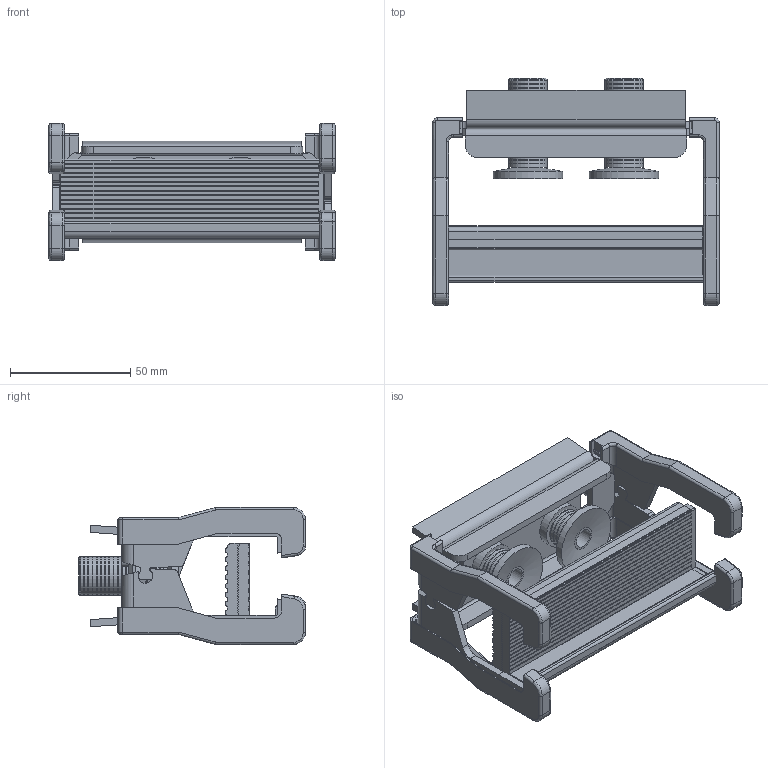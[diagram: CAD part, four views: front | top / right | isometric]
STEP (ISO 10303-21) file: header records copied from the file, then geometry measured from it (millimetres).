
FILE_DESCRIPTION (( 'STEP AP203' ), '1' );
FILE_NAME ('54213.STEP', '2021-08-14T01:58:44', ( '' ), ( '' ), 'SwSTEP 2.0', 'SolidWorks 2017', '' );
FILE_SCHEMA (( 'CONFIG_CONTROL_DESIGN' ));
Length unit declared in the file: millimetre
Products named in the file (2): 54213
Bounding box: 119 x 94.37 x 57 mm (x, y, z)
Volume: 146523.8 mm3; surface area: 97534 mm2
Topology: 15 solids, 15 shells, 1159 faces, 3116 edges, 1993 vertices
Faces by surface type: plane 521, cylinder 462, cone 112, bspline 52, torus 12
Full cylindrical faces by diameter (mm): 8 x4, 10 x6, 14.343 x40, 14.5 x2, 16 x44, 19 x2, 29 x2
Entity records: 36855 total; most frequent: CARTESIAN_POINT 8858, DIRECTION 5832, ORIENTED_EDGE 5652, EDGE_CURVE 2826, AXIS2_PLACEMENT_3D 2029, VERTEX_POINT 1899, VECTOR 1774, LINE 1774
